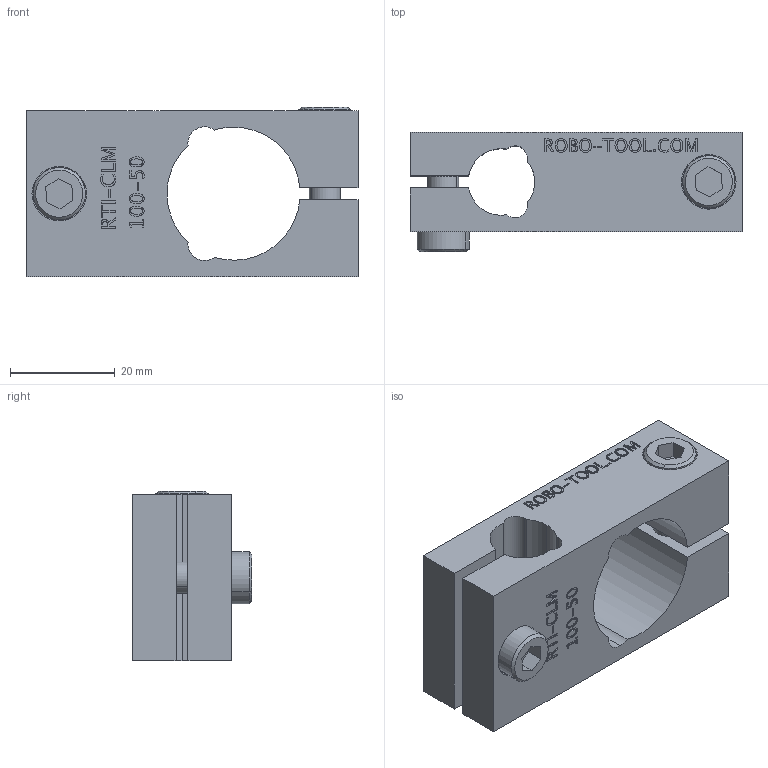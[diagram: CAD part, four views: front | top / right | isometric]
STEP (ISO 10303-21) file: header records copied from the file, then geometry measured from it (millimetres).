
FILE_DESCRIPTION (( 'STEP AP214' ), '1' );
FILE_NAME ('RTI-CLM-100-50.STEP', '2013-10-21T15:40:42', ( 'user' ), ( '' ), 'SwSTEP 2.0', 'SolidWorks 2009', '' );
FILE_SCHEMA (( 'AUTOMOTIVE_DESIGN' ));
Length unit declared in the file: inch
Products named in the file (5): RTI-CLM-100-50; M6 S.H.C.S._M6x16mm; M6 WASHER; M6 S.H.C.S._M6x25mm
Assembly tree (5 placements, depth 2):
  RTI-CLM-100-50
    M6 S.H.C.S._M6x16mm
    M6 WASHER  x2
    M6 S.H.C.S._M6x25mm
    RTI-CLM-100-50
Bounding box: 63.5 x 22.88 x 32.4 mm (x, y, z)
Volume: 23092.4 mm3; surface area: 12702.1 mm2
Topology: 5 solids, 5 shells, 363 faces, 913 edges, 606 vertices
Faces by surface type: plane 203, bspline 105, cylinder 47, cone 8
Entity records: 20555 total; most frequent: CARTESIAN_POINT 9009, ORIENTED_EDGE 1802, DIRECTION 1305, EDGE_CURVE 901, VERTEX_POINT 598, LINE 597, VECTOR 597, EDGE_LOOP 413
